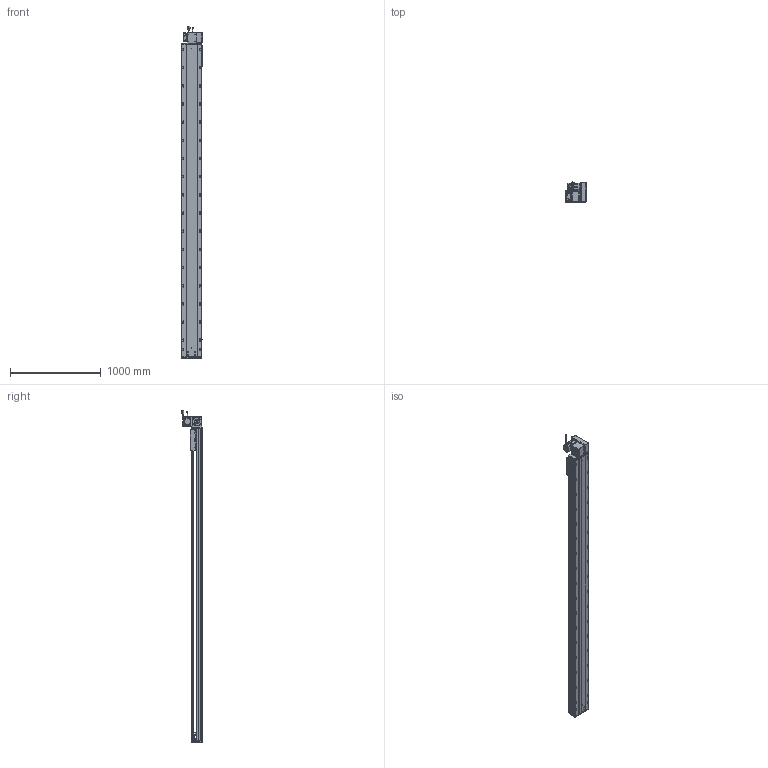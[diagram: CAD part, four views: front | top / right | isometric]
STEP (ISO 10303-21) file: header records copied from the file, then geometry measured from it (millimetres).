
FILE_DESCRIPTION (( 'STEP AP203' ), '1' );
FILE_NAME ('RY220-T-300-UR.SLDASM_3100.step', '2022-07-25T08:46:18', ( '' ), ( '' ), 'SwSTEP 2.0', 'SolidWorks 2016', '' );
FILE_SCHEMA (( 'CONFIG_CONTROL_DESIGN' ));
Length unit declared in the file: millimetre
Products named in the file (14): RY220翋肮祭謫裔啣; RY220-T-300-奻裔啣_3100; RY220-T-湍謫欶(鍼踢); RY220-T-蛌殏萇儂假蚾啣(750W); RY220翋肮祭謫釱; RY220-T菁釱-300_3100; RY220-俋离672覜茼んえ; RY220圉猾敕々湍臏賑輸; 滅袉蝶18-15; 怢湛750W_ECMA-CX0807ES; RY220-T-300-UR.SLDASM_3100; RY220-同步轮副支撑座6304×2; 110A-T-肮祭謫釱傷裔; 覜茼ん672
Assembly tree (18 placements, depth 2):
  RY220-T-300-UR.SLDASM_3100
    RY220-T菁釱-300_3100
    RY220翋肮祭謫釱
    覜茼ん672  x3
    RY220圉猾敕々湍臏賑輸
    RY220-T-300-奻裔啣_3100
    RY220-俋离672覜茼んえ
    滅袉蝶18-15  x3
    RY220翋肮祭謫裔啣  x2
    110A-T-肮祭謫釱傷裔
    怢湛750W_ECMA-CX0807ES
    RY220-T-湍謫欶(鍼踢)
    RY220-T-蛌殏萇儂假蚾啣(750W)
    RY220-同步轮副支撑座6304×2
Bounding box: 238.7 x 231.74 x 3653.27 mm (x, y, z)
Volume: 25848653.1 mm3; surface area: 8010589.9 mm2
Topology: 19 solids, 19 shells, 3058 faces, 8463 edges, 5292 vertices
Faces by surface type: cylinder 1518, plane 1069, cone 389, bspline 56, sphere 16, torus 10
Entity records: 102035 total; most frequent: CARTESIAN_POINT 28749, ORIENTED_EDGE 15130, DIRECTION 14648, EDGE_CURVE 7565, AXIS2_PLACEMENT_3D 5300, VERTEX_POINT 4916, VECTOR 4048, LINE 4048
